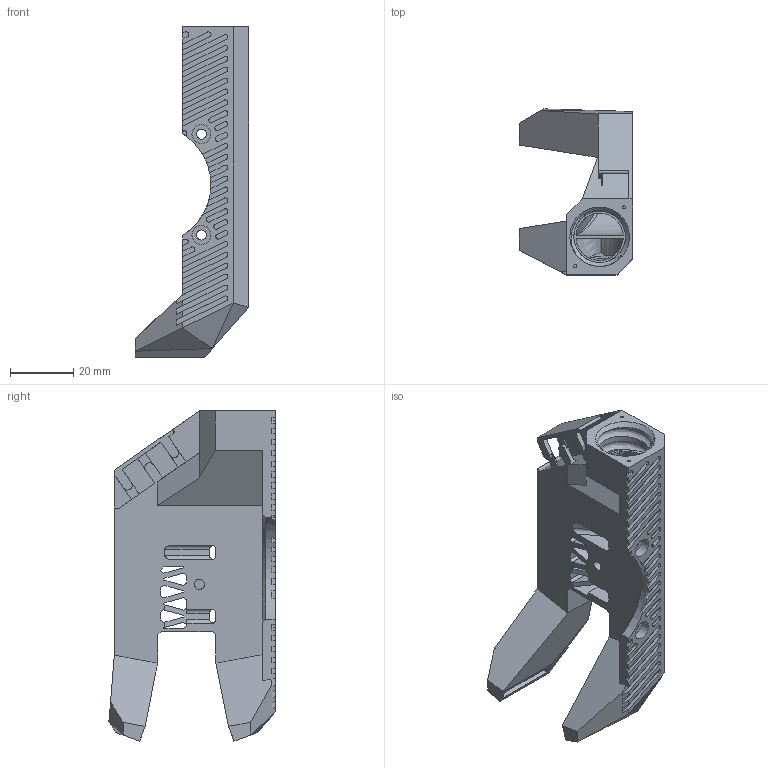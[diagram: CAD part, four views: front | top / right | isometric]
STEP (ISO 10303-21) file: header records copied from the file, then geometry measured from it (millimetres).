
FILE_DESCRIPTION(/* description */ ('CAx-IF Rec.Pracs.---Representation and Presentation of Product Manufacturing Information (PMI)---4.0---2014-10-13','CAx-IF Rec.Pracs.---3D Tessellated Geometry---0.4---2014-09-14','2;1'),/* implementation_level */ '2;1');
FILE_NAME(/* name */ 'B1R7040R',/* time_stamp */ '2025-06-16T17:36:07+03:00',/* author */ (''),/* organization */ (''),/* preprocessor_version */ 'ST-DEVELOPER v20',/* originating_system */ 'SIEMENS PLM Software NX2406.6001',/* authorisation */ $);
FILE_SCHEMA (('AP242_MANAGED_MODEL_BASED_3D_ENGINEERING_MIM_LF { 1 0 10303 442 3 1 4 }'));
Length unit declared in the file: millimetre
Products named in the file (1): B1R7040R
Bounding box: 36 x 52.7 x 104.72 mm (x, y, z)
Volume: 33120.9 mm3; surface area: 26978.5 mm2
Topology: 1 solids, 1 shells, 584 faces, 1606 edges, 1052 vertices
Faces by surface type: plane 425, cylinder 104, bspline 51, cone 4
Full cylindrical faces by diameter (mm): 1 x2, 3.2 x3, 6 x3
Entity records: 21592 total; most frequent: CARTESIAN_POINT 7334, ORIENTED_EDGE 3182, DIRECTION 2572, EDGE_CURVE 1591, LINE 1052, VECTOR 1052, VERTEX_POINT 1049, AXIS2_PLACEMENT_3D 760
